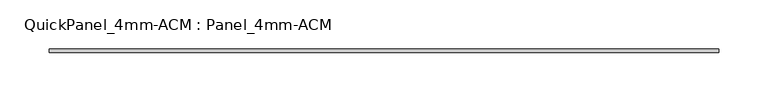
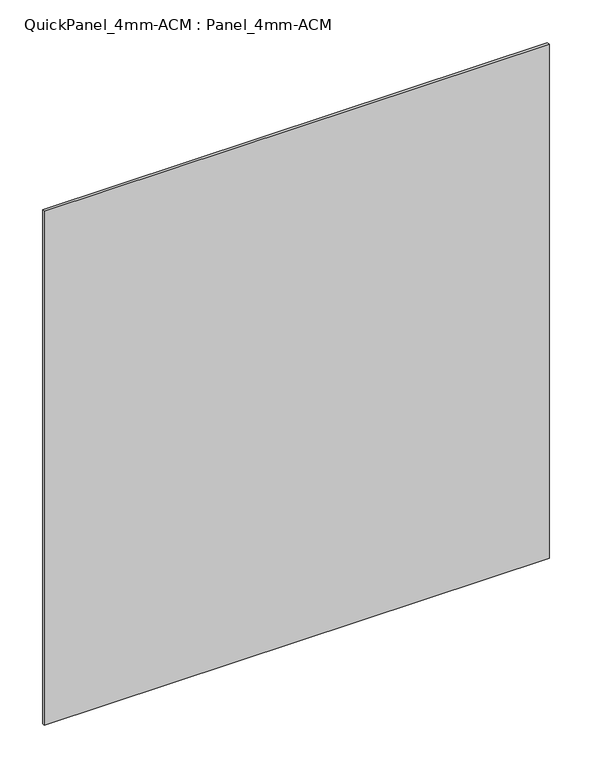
"""IFC4 building model written with IfcOpenShell, lengths in millimetres: plate geometry, QuickPanel_4mm-ACM : Panel_4mm-ACM."""

from ifc_helpers import new_model, si_unit, origin, origin_with_axes, place, context, project, spatial, polyline, outline, extrude, source, transform, mapped, element, save


def quickpanel_4mm_acm_panel_4mm_acm_bb4c849f(model_context):
    return source(origin(), model_context, "Body", "SweptSolid", [
        extrude(outline(polyline([(-341.1618133, -6.096), (341.1618133, -6.096), (341.1618133, -9.906), (-341.1618133, -9.906), (-341.1618133, -6.096)])), origin_with_axes(), (0.0, 0.0, 1.0), 734.3930447),
    ])


if __name__ == "__main__":
    model = new_model("IFC4")
    model_context = context("Model", 3, world=origin())
    ifc_project = project(units=[si_unit("LENGTHUNIT", "METRE", prefix="MILLI")], contexts=[model_context])
    site = spatial("IfcSite", under=ifc_project)
    building = spatial("IfcBuilding", under=site)
    placement = place(None, origin())
    quickpanel_4mm_acm_panel_4mm_acm_shape = quickpanel_4mm_acm_panel_4mm_acm_bb4c849f(model_context)
    element("IfcPlate", 1, ObjectType="QuickPanel_4mm-ACM : Panel_4mm-ACM", at=placement, inside=building, context=model_context, shape_type="MappedRepresentation", body=[
        mapped(quickpanel_4mm_acm_panel_4mm_acm_shape, transform((0.0, 0.0, 0.0), x_axis=(1.0, 0.0, 0.0), y_axis=(0.0, 1.0, 0.0), z_axis=(0.0, 0.0, 1.0))),
    ])
    save(model, "model.ifc")
